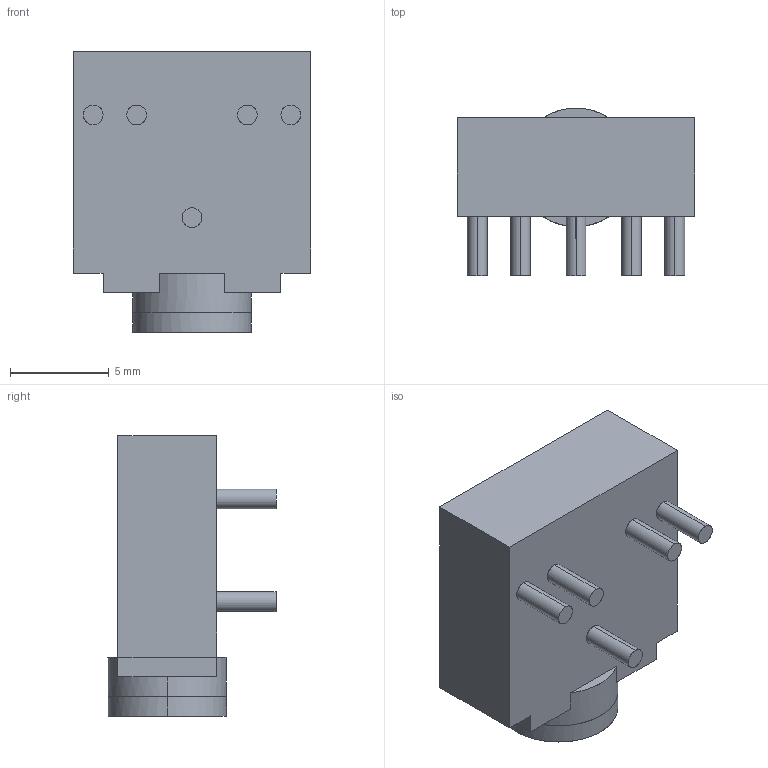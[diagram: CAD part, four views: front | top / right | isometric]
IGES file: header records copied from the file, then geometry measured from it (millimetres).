
Start section: SolidWorks IGES file using analytic representation for surfaces
Global section: file name: C:\Users\AndreBernot\Downloads\K-RACER-L_3D_SW\K-RACER-L_3D_SW\Embase program 3.5_A.IGS; native system: SolidWorks 2015; preprocessor: SolidWorks 2015; author: AndreBernot; date: 170922.151159; units: millimetre
Bounding box: 12 x 8.5 x 14.2 mm (x, y, z)
Surface area: 733.7 mm2 (no closed solid volume)
Topology: 0 solids, 0 shells, 40 faces, 444 edges, 444 vertices
Faces by surface type: bspline 24, revolution 16
